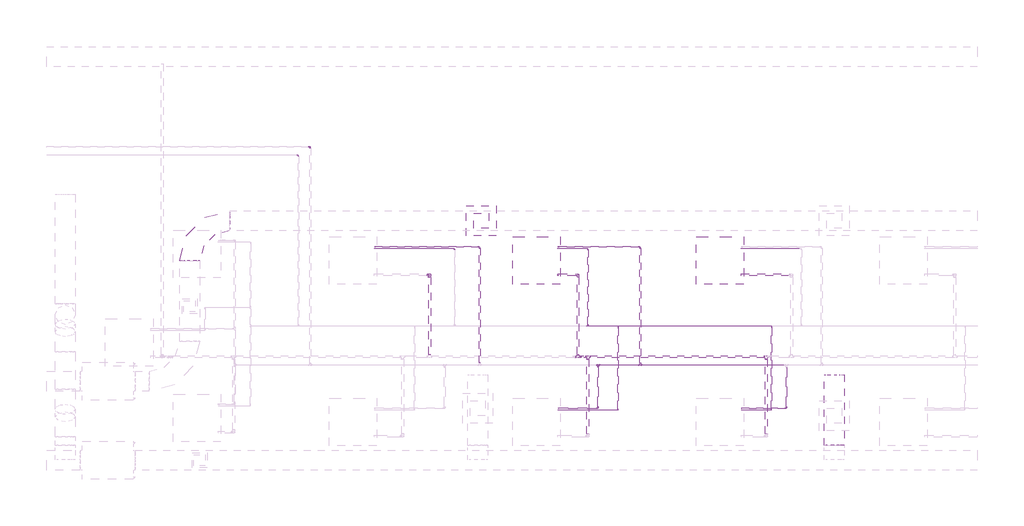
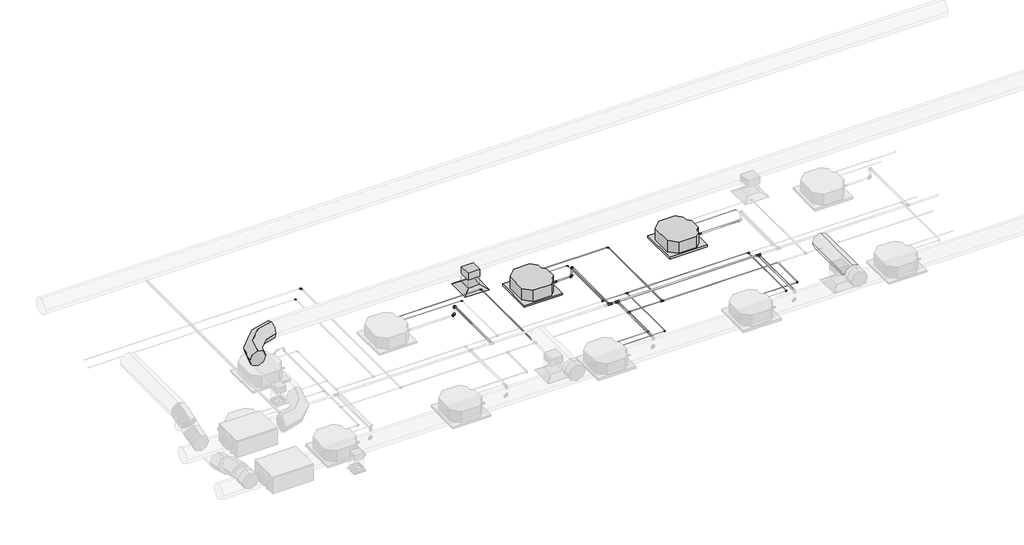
# One storey, part 8 of 22: 35 pipe fittings, 29 pipe segments, 2 duct fittings, 2 duct segments, 2 proxies, 1 air terminal.
"""IFC4 building model written with IfcOpenShell, lengths in millimetres."""

from ifc_helpers import new_model, si_unit, point, frame, frame_2d, origin, place, context, project, spatial, polyline, circle_curve, trimmed, segment, composite_curve, outline, extrude, transform, mapped, element, save
from components import air_terminal_ff221211, mechanical_equipment_53173f38, duct_fitting_95c1ddea, duct_fitting_2_d_33ab650d, pipe_fitting_e2d793b1, pipe_fitting_535881cf, pipe_fitting_3e2a63ee, pipe_fitting_144f4440, pipe_fitting_14eb6376, pipe_fitting_ec53ccd8, pipe_fitting_6062cb46, pipe_fitting_5d8e22a1, pipe_fitting_c900cfc2, pipe_fitting_16c020f5, pipe_fitting_0e110a5f, pipe_fitting_afe73776, pipe_fitting_09966660, pipe_fitting_59d1f3e3, pipe_fitting_648138cd, pipe_fitting_da16c1b3, pipe_fitting_5a6d96d3

model = new_model("IFC4")

# Units and contexts
model_context = context("Model", 3, world=origin())
ifc_project = project(units=[si_unit("LENGTHUNIT", "METRE", prefix="MILLI")], contexts=[model_context])

# Site, building, storey
site = spatial("IfcSite", under=ifc_project)
building = spatial("IfcBuilding", under=site)
storey = spatial("IfcBuildingStorey", under=building, Name="Nível 2", Elevation=3880.0)

# Air terminal
placement = place(None, origin())
air_terminal_shape = air_terminal_ff221211(model_context)
element("IfcAirTerminal", 1, ObjectType="M_Difusor de retorno : 600 x 600 Face 300 x 300 Conexão", at=placement, inside=storey, context=model_context, shape_type="MappedRepresentation", body=[
    mapped(air_terminal_shape, transform((6096.2436963, -3994.5831069, 6880.0), x_axis=(0.0, -1.0, 0.0), y_axis=(1.0, 0.0, 0.0), z_axis=(0.0, 0.0, 1.0))),
])

# Proxies
mechanical_equipment_shape = mechanical_equipment_53173f38(model_context)
element("IfcBuildingElementProxy", 2, Name="Midea_VRF_Indoor_4-way Cassette_MI-90(100,112,140)Q4_DHN1-D (2nd DC) : MI2-140Q4DHN1", ObjectType="Midea_VRF_Indoor_4-way Cassette_MI-90(100,112,140)Q4_DHN1-D (2nd DC) : MI2-140Q4DHN1", at=placement, inside=storey, context=model_context, shape_type="MappedRepresentation", body=[
    mapped(mechanical_equipment_shape, transform((10849.4883894, -4786.5566502, 6880.0), x_axis=(1.0, 0.0, 0.0), y_axis=(0.0, 1.0, 0.0), z_axis=(0.0, 0.0, 1.0))),
])
element("IfcBuildingElementProxy", 3, Name="Midea_VRF_Indoor_4-way Cassette_MI-90(100,112,140)Q4_DHN1-D (2nd DC) : MI2-140Q4DHN1", ObjectType="Midea_VRF_Indoor_4-way Cassette_MI-90(100,112,140)Q4_DHN1-D (2nd DC) : MI2-140Q4DHN1", at=placement, inside=storey, context=model_context, shape_type="MappedRepresentation", body=[
    mapped(mechanical_equipment_shape, transform((7195.2684179, -4786.5566502, 6880.0), x_axis=(1.0, 0.0, 0.0), y_axis=(0.0, 1.0, 0.0), z_axis=(0.0, 0.0, 1.0))),
])

# Duct fittings
duct_fitting_shape = duct_fitting_95c1ddea(model_context)
element("IfcDuctFitting", 4, ObjectType="M_Encaixe de duto retangular : Padrão", at=placement, inside=storey, context=model_context, shape_type="MappedRepresentation", body=[
    mapped(duct_fitting_shape, transform((6096.2436963, -3994.5831069, 7301.0), x_axis=(0.0, 0.0, -1.0), y_axis=(-1.0, 0.0, 0.0), z_axis=(0.0, 1.0, 0.0))),
])
duct_fitting_2_d_shape = duct_fitting_2_d_33ab650d(model_context)
element("IfcDuctFitting", 5, ObjectType="M_Cotovelo redondo : 2 D", at=placement, inside=storey, context=model_context, shape_type="MappedRepresentation", body=[
    mapped(duct_fitting_2_d_shape, transform((283.5312703, -3994.5831069, 7501.0), x_axis=(-1.0, 0.0, 0.0), y_axis=(0.0, -1.0, 0.0), z_axis=(0.0, 0.0, 1.0))),
])

# Duct segments
element("IfcDuctSegment", 6, ObjectType="Torneiras / Raio curto", at=placement, inside=storey, context=model_context, shape_type="SweptSolid", body=[
    extrude(outline(composite_curve([segment(trimmed(circle_curve(frame_2d((7501.0, 13129.4277224)), 200.0), [point((7501.0, 13329.4277224))], [point((7701.0, 13129.4277224))], False, "CARTESIAN"), True, "CONTINUOUS"), segment(trimmed(circle_curve(frame_2d((7501.0, 13129.4277224)), 200.0), [point((7701.0, 13129.4277224))], [point((7501.0, 12929.4277224))], False, "CARTESIAN"), True, "CONTINUOUS"), segment(trimmed(circle_curve(frame_2d((7501.0, 13129.4277224)), 200.0), [point((7501.0, 12929.4277224))], [point((7301.0, 13129.4277224))], False, "CARTESIAN"), True, "CONTINUOUS"), segment(trimmed(circle_curve(frame_2d((7501.0, 13129.4277224)), 200.0), [point((7301.0, 13129.4277224))], [point((7501.0, 13329.4277224))], False, "CARTESIAN"), True, "CONTINUOUS")], self_intersect=False)), frame((0.0, -8462.2997628, 0.0), z_axis=(0.0, 1.0, 0.0), x_axis=(0.0, 0.0, 1.0)), (0.0, 0.0, 1.0), 1398.4),
])
element("IfcDuctSegment", 7, ObjectType="Raios cotovelos / torneiras", at=placement, inside=storey, context=model_context, shape_type="SweptSolid", body=[
    extrude(outline(polyline([(6246.2436963, -4144.5831069), (5946.2436963, -4144.5831069), (5946.2436963, -3844.5831069), (6246.2436963, -3844.5831069), (6246.2436963, -4144.5831069)])), frame((0.0, 0.0, 6981.6), z_axis=(0.0, 0.0, 1.0), x_axis=(1.0, 0.0, 0.0)), (0.0, 0.0, 1.0), 217.8),
])

# Pipe fittings
pipe_fitting_shape = pipe_fitting_e2d793b1(model_context)
element("IfcPipeFitting", 8, ObjectType="Bucha de redução reta - Soldada - CU : Padrão", at=placement, inside=storey, context=model_context, shape_type="MappedRepresentation", body=[
    mapped(pipe_fitting_shape, transform((7620.2684179, -5071.5566502, 7132.3085101), x_axis=(1.0, 0.0, 0.0), y_axis=(0.0, 1.0, 0.0), z_axis=(0.0, 0.0, 1.0))),
])
pipe_fitting_2_shape = pipe_fitting_535881cf(model_context)
element("IfcPipeFitting", 9, ObjectType="Cotovelo - Soldado - CU : Padrão", at=placement, inside=storey, context=model_context, shape_type="MappedRepresentation", body=[
    mapped(pipe_fitting_2_shape, transform((8020.2684178, -5071.5566502, 7380.0), x_axis=(0.0, 0.0, 1.0), y_axis=(0.0, -1.0, 0.0), z_axis=(1.0, 0.0, 0.0))),
])
pipe_fitting_3_shape = pipe_fitting_3e2a63ee(model_context)
element("IfcPipeFitting", 10, ObjectType="Tê - Soldado - CU : Padrão", at=placement, inside=storey, context=model_context, shape_type="MappedRepresentation", body=[
    mapped(pipe_fitting_3_shape, transform((8020.2684178, -6706.7007344, 7380.0), x_axis=(-1.0, 0.0, 0.0), y_axis=(0.0, -1.0, 0.0), z_axis=(0.0, 0.0, 1.0))),
])
pipe_fitting_4_shape = pipe_fitting_144f4440(model_context)
element("IfcPipeFitting", 11, ObjectType="Cotovelo - PVC - CW : Padrão", at=placement, inside=storey, context=model_context, shape_type="MappedRepresentation", body=[
    mapped(pipe_fitting_4_shape, transform((5066.0484463, -5071.5566502, 7380.0), x_axis=(0.0, 0.0, 1.0), y_axis=(0.0, -1.0, 0.0), z_axis=(1.0, 0.0, 0.0))),
])
pipe_fitting_5_shape = pipe_fitting_14eb6376(model_context)
element("IfcPipeFitting", 12, ObjectType="Tê de redução - PVC - CW : Padrão", at=placement, inside=storey, context=model_context, shape_type="MappedRepresentation", body=[
    mapped(pipe_fitting_5_shape, transform((8220.2684178, -6706.7007344, 7380.0), x_axis=(-1.0, 0.0, 0.0), y_axis=(0.0, 1.0, 0.0), z_axis=(0.0, 0.0, -1.0))),
])
element("IfcPipeFitting", 13, ObjectType="Tê de redução - PVC - CW : Padrão", at=placement, inside=storey, context=model_context, shape_type="MappedRepresentation", body=[
    mapped(pipe_fitting_5_shape, transform((11774.4883894, -6706.7007344, 7380.0), x_axis=(-1.0, 0.0, 0.0), y_axis=(0.0, 1.0, 0.0), z_axis=(0.0, 0.0, -1.0))),
])
pipe_fitting_6_shape = pipe_fitting_ec53ccd8(model_context)
element("IfcPipeFitting", 14, ObjectType="Bucha de redução reta - Soldada - CU : Padrão", at=placement, inside=storey, context=model_context, shape_type="MappedRepresentation", body=[
    mapped(pipe_fitting_6_shape, transform((8067.0184178, -6706.7007344, 7380.0), x_axis=(1.0, 0.0, 0.0), y_axis=(0.0, 1.0, 0.0), z_axis=(0.0, 0.0, 1.0))),
])
pipe_fitting_7_shape = pipe_fitting_6062cb46(model_context)
element("IfcPipeFitting", 15, ObjectType="Cotovelo - PVC - CW : Padrão", at=placement, inside=storey, context=model_context, shape_type="MappedRepresentation", body=[
    mapped(pipe_fitting_7_shape, transform((5066.0484463, -5071.5566502, 7132.3), x_axis=(0.9999999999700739, 0.0, -7.736412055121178e-06), y_axis=(7.736412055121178e-06, 0.0, 0.9999999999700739), z_axis=(0.0, -1.0, 0.0))),
])
pipe_fitting_8_shape = pipe_fitting_5d8e22a1(model_context)
element("IfcPipeFitting", 16, ObjectType="Cotovelo - Soldado - CU : Padrão", at=placement, inside=storey, context=model_context, shape_type="MappedRepresentation", body=[
    mapped(pipe_fitting_8_shape, transform((8020.2684178, -5071.5566502, 7132.3), x_axis=(0.9999999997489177, 0.0, -2.2409030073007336e-05), y_axis=(2.2409030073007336e-05, 0.0, 0.9999999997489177), z_axis=(0.0, -1.0, 0.0))),
])
pipe_fitting_9_shape = pipe_fitting_c900cfc2(model_context)
element("IfcPipeFitting", 17, ObjectType="Bucha de redução reta - Soldada - CU : Padrão", at=placement, inside=storey, context=model_context, shape_type="MappedRepresentation", body=[
    mapped(pipe_fitting_9_shape, transform((11274.4883894, -7728.7092137, 7132.3085101), x_axis=(1.0, 0.0, 0.0), y_axis=(0.0, 1.0, 0.0), z_axis=(0.0, 0.0, 1.0))),
])
element("IfcPipeFitting", 18, ObjectType="Bucha de redução reta - Soldada - CU : Padrão", at=placement, inside=storey, context=model_context, shape_type="MappedRepresentation", body=[
    mapped(pipe_fitting_9_shape, transform((11274.4883894, -4513.3458366, 7132.3085101), x_axis=(1.0, 0.0, 0.0), y_axis=(0.0, 1.0, 0.0), z_axis=(0.0, 0.0, 1.0))),
])
element("IfcPipeFitting", 19, ObjectType="Bucha de redução reta - Soldada - CU : Padrão", at=placement, inside=storey, context=model_context, shape_type="MappedRepresentation", body=[
    mapped(pipe_fitting_9_shape, transform((7620.2684179, -4513.3458366, 7132.3085101), x_axis=(1.0, 0.0, 0.0), y_axis=(0.0, 1.0, 0.0), z_axis=(0.0, 0.0, 1.0))),
])
pipe_fitting_10_shape = pipe_fitting_16c020f5(model_context)
element("IfcPipeFitting", 20, ObjectType="Cotovelo - Soldado - CU : Padrão", at=placement, inside=storey, context=model_context, shape_type="MappedRepresentation", body=[
    mapped(pipe_fitting_10_shape, transform((12174.4883894, -7728.7092137, 7132.3085101), x_axis=(1.0, 0.0, 0.0), y_axis=(0.0, 1.0, 0.0), z_axis=(0.0, 0.0, 1.0))),
])
element("IfcPipeFitting", 21, ObjectType="Cotovelo - Soldado - CU : Padrão", at=placement, inside=storey, context=model_context, shape_type="MappedRepresentation", body=[
    mapped(pipe_fitting_10_shape, transform((8420.2684179, -7728.7092137, 7132.3085101), x_axis=(1.0, 0.0, 0.0), y_axis=(0.0, 1.0, 0.0), z_axis=(0.0, 0.0, 1.0))),
])
element("IfcPipeFitting", 22, ObjectType="Cotovelo - Soldado - CU : Padrão", at=placement, inside=storey, context=model_context, shape_type="MappedRepresentation", body=[
    mapped(pipe_fitting_10_shape, transform((9260.2684179, -4513.3458366, 7132.3085101), x_axis=(0.0, 1.0, 0.0), y_axis=(-1.0, 0.0, 0.0), z_axis=(0.0, 0.0, 1.0))),
])
element("IfcPipeFitting", 23, ObjectType="Cotovelo - Soldado - CU : Padrão", at=placement, inside=storey, context=model_context, shape_type="MappedRepresentation", body=[
    mapped(pipe_fitting_10_shape, transform((6066.0484463, -4513.3458366, 7132.3085101), x_axis=(0.0, 1.0, 0.0), y_axis=(-1.0, 0.0, 0.0), z_axis=(0.0, 0.0, 1.0))),
])
pipe_fitting_11_shape = pipe_fitting_0e110a5f(model_context)
element("IfcPipeFitting", 24, ObjectType="Cotovelo - Soldado - CU : Padrão", at=placement, inside=storey, context=model_context, shape_type="MappedRepresentation", body=[
    mapped(pipe_fitting_11_shape, transform((2684.689564, -2518.4426922, 7132.3), x_axis=(0.0, 0.9999999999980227, -1.9886254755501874e-06), y_axis=(-1.0, 0.0, 0.0), z_axis=(0.0, 1.9886254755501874e-06, 0.9999999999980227))),
])
pipe_fitting_12_shape = pipe_fitting_afe73776(model_context)
element("IfcPipeFitting", 25, ObjectType="Bucha de redução reta - Soldada - CU : Padrão", at=placement, inside=storey, context=model_context, shape_type="MappedRepresentation", body=[
    mapped(pipe_fitting_12_shape, transform((8420.2684179, -6898.1281922, 7132.3085101), x_axis=(0.0, -1.0, 0.0), y_axis=(1.0, 0.0, 0.0), z_axis=(0.0, 0.0, 1.0))),
])
element("IfcPipeFitting", 26, ObjectType="Bucha de redução reta - Soldada - CU : Padrão", at=placement, inside=storey, context=model_context, shape_type="MappedRepresentation", body=[
    mapped(pipe_fitting_12_shape, transform((9260.2684179, -6837.8071922, 7132.3085101), x_axis=(0.0, 1.0, 0.0), y_axis=(-1.0, 0.0, 0.0), z_axis=(0.0, 0.0, 1.0))),
])
pipe_fitting_13_shape = pipe_fitting_09966660(model_context)
element("IfcPipeFitting", 27, ObjectType="Tê - Soldado - CU : Padrão", at=placement, inside=storey, context=model_context, shape_type="MappedRepresentation", body=[
    mapped(pipe_fitting_13_shape, transform((8420.2684179, -6867.9676922, 7132.3085101), x_axis=(-1.0, 0.0, 0.0), y_axis=(0.0, 1.0, 0.0), z_axis=(0.0, 0.0, -1.0))),
])
element("IfcPipeFitting", 28, ObjectType="Tê - Soldado - CU : Padrão", at=placement, inside=storey, context=model_context, shape_type="MappedRepresentation", body=[
    mapped(pipe_fitting_13_shape, transform((9260.2684179, -6867.9676922, 7132.3085101), x_axis=(-1.0, 0.0, 0.0), y_axis=(0.0, -1.0, 0.0), z_axis=(0.0, 0.0, 1.0))),
])
pipe_fitting_14_shape = pipe_fitting_59d1f3e3(model_context)
element("IfcPipeFitting", 29, ObjectType="Bucha de redução reta - Soldada - CU : Padrão", at=placement, inside=storey, context=model_context, shape_type="MappedRepresentation", body=[
    mapped(pipe_fitting_14_shape, transform((11274.4883894, -7762.5116556, 7026.8446487), x_axis=(1.0, 0.0, 0.0), y_axis=(0.0, 1.0, 0.0), z_axis=(0.0, 0.0, 1.0))),
])
element("IfcPipeFitting", 30, ObjectType="Bucha de redução reta - Soldada - CU : Padrão", at=placement, inside=storey, context=model_context, shape_type="MappedRepresentation", body=[
    mapped(pipe_fitting_14_shape, transform((11274.4883894, -4547.1482784, 7026.8446487), x_axis=(1.0, 0.0, 0.0), y_axis=(0.0, 1.0, 0.0), z_axis=(0.0, 0.0, 1.0))),
])
element("IfcPipeFitting", 31, ObjectType="Bucha de redução reta - Soldada - CU : Padrão", at=placement, inside=storey, context=model_context, shape_type="MappedRepresentation", body=[
    mapped(pipe_fitting_14_shape, transform((7620.2684179, -4547.1482784, 7026.8446487), x_axis=(1.0, 0.0, 0.0), y_axis=(0.0, 1.0, 0.0), z_axis=(0.0, 0.0, 1.0))),
])
pipe_fitting_15_shape = pipe_fitting_648138cd(model_context)
element("IfcPipeFitting", 32, ObjectType="Cotovelo - Soldado - CU : Padrão", at=placement, inside=storey, context=model_context, shape_type="MappedRepresentation", body=[
    mapped(pipe_fitting_15_shape, transform((11874.4883894, -7762.5116556, 7026.8446487), x_axis=(1.0, 0.0, 0.0), y_axis=(0.0, 1.0, 0.0), z_axis=(0.0, 0.0, 1.0))),
])
element("IfcPipeFitting", 33, ObjectType="Cotovelo - Soldado - CU : Padrão", at=placement, inside=storey, context=model_context, shape_type="MappedRepresentation", body=[
    mapped(pipe_fitting_15_shape, transform((8820.2684179, -7762.5116556, 7026.8446487), x_axis=(1.0, 0.0, 0.0), y_axis=(0.0, 1.0, 0.0), z_axis=(0.0, 0.0, 1.0))),
])
element("IfcPipeFitting", 34, ObjectType="Cotovelo - Soldado - CU : Padrão", at=placement, inside=storey, context=model_context, shape_type="MappedRepresentation", body=[
    mapped(pipe_fitting_15_shape, transform((8220.2684179, -4547.1482784, 7026.8446487), x_axis=(0.0, 1.0, 0.0), y_axis=(-1.0, 0.0, 0.0), z_axis=(0.0, 0.0, 1.0))),
])
element("IfcPipeFitting", 35, ObjectType="Cotovelo - Soldado - CU : Padrão", at=placement, inside=storey, context=model_context, shape_type="MappedRepresentation", body=[
    mapped(pipe_fitting_15_shape, transform((5566.0484463, -4547.1482784, 7026.8446487), x_axis=(0.0, 1.0, 0.0), y_axis=(-1.0, 0.0, 0.0), z_axis=(0.0, 0.0, 1.0))),
])
element("IfcPipeFitting", 36, ObjectType="Cotovelo - Soldado - CU : Padrão", at=placement, inside=storey, context=model_context, shape_type="MappedRepresentation", body=[
    mapped(pipe_fitting_15_shape, transform((2451.4313698, -2684.7491488, 7026.8446487), x_axis=(0.0, 1.0, 0.0), y_axis=(-1.0, 0.0, 0.0), z_axis=(0.0, 0.0, 1.0))),
])
pipe_fitting_16_shape = pipe_fitting_da16c1b3(model_context)
element("IfcPipeFitting", 37, ObjectType="Tê - Soldado - CU : Padrão", at=placement, inside=storey, context=model_context, shape_type="MappedRepresentation", body=[
    mapped(pipe_fitting_16_shape, transform((11874.4883894, -6091.0991488, 7026.8446487), x_axis=(-1.0, 0.0, 0.0), y_axis=(0.0, 1.0, 0.0), z_axis=(0.0, 0.0, -1.0))),
])
element("IfcPipeFitting", 38, ObjectType="Tê - Soldado - CU : Padrão", at=placement, inside=storey, context=model_context, shape_type="MappedRepresentation", body=[
    mapped(pipe_fitting_16_shape, transform((8820.2684179, -6091.0991488, 7026.8446487), x_axis=(-1.0, 0.0, 0.0), y_axis=(0.0, 1.0, 0.0), z_axis=(0.0, 0.0, -1.0))),
])
element("IfcPipeFitting", 39, ObjectType="Tê - Soldado - CU : Padrão", at=placement, inside=storey, context=model_context, shape_type="MappedRepresentation", body=[
    mapped(pipe_fitting_16_shape, transform((8220.2684179, -6091.0991488, 7026.8446487), x_axis=(-1.0, 0.0, 0.0), y_axis=(0.0, -1.0, 0.0), z_axis=(0.0, 0.0, 1.0))),
])
pipe_fitting_17_shape = pipe_fitting_5a6d96d3(model_context)
element("IfcPipeFitting", 40, ObjectType="Bucha de redução reta - Soldada - CU : Padrão", at=placement, inside=storey, context=model_context, shape_type="MappedRepresentation", body=[
    mapped(pipe_fitting_17_shape, transform((11874.4883894, -6116.1161488, 7026.8446487), x_axis=(0.0, -1.0, 0.0), y_axis=(1.0, 0.0, 0.0), z_axis=(0.0, 0.0, 1.0))),
])
element("IfcPipeFitting", 41, ObjectType="Bucha de redução reta - Soldada - CU : Padrão", at=placement, inside=storey, context=model_context, shape_type="MappedRepresentation", body=[
    mapped(pipe_fitting_17_shape, transform((8820.2684179, -6116.1161488, 7026.8446487), x_axis=(0.0, -1.0, 0.0), y_axis=(1.0, 0.0, 0.0), z_axis=(0.0, 0.0, 1.0))),
])
element("IfcPipeFitting", 42, ObjectType="Bucha de redução reta - Soldada - CU : Padrão", at=placement, inside=storey, context=model_context, shape_type="MappedRepresentation", body=[
    mapped(pipe_fitting_17_shape, transform((8220.2684179, -6066.0821488, 7026.8446487), x_axis=(0.0, 1.0, 0.0), y_axis=(-1.0, 0.0, 0.0), z_axis=(0.0, 0.0, 1.0))),
])

# Pipe segments
element("IfcPipeSegment", 43, ObjectType="Tubos de cobre HVAC", at=placement, inside=storey, context=model_context, shape_type="SweptSolid", body=[
    extrude(outline(composite_curve([segment(trimmed(circle_curve(frame_2d((-7728.7092137, 7132.3085101)), 7.935), [point((-7736.6442137, 7132.3085101))], [point((-7728.7092137, 7140.2435101))], False, "CARTESIAN"), True, "CONTINUOUS"), segment(trimmed(circle_curve(frame_2d((-7728.7092137, 7132.3085101)), 7.935), [point((-7728.7092137, 7140.2435101))], [point((-7720.7742137, 7132.3085101))], False, "CARTESIAN"), True, "CONTINUOUS"), segment(trimmed(circle_curve(frame_2d((-7728.7092137, 7132.3085101)), 7.935), [point((-7720.7742137, 7132.3085101))], [point((-7728.7092137, 7124.3735101))], False, "CARTESIAN"), True, "CONTINUOUS"), segment(trimmed(circle_curve(frame_2d((-7728.7092137, 7132.3085101)), 7.935), [point((-7728.7092137, 7124.3735101))], [point((-7736.6442137, 7132.3085101))], False, "CARTESIAN"), True, "CONTINUOUS")], self_intersect=False)), frame((11287.1472894, 0.0, 0.0), z_axis=(1.0, 0.0, 0.0), x_axis=(0.0, 1.0, 0.0)), (0.0, 0.0, 1.0), 858.3625),
])
element("IfcPipeSegment", 44, ObjectType="Tubos de cobre HVAC", at=placement, inside=storey, context=model_context, shape_type="SweptSolid", body=[
    extrude(outline(composite_curve([segment(trimmed(circle_curve(frame_2d((7132.3085101, 12174.4883894)), 7.935), [point((7132.3085101, 12166.5533894))], [point((7124.3735101, 12174.4883894))], False, "CARTESIAN"), True, "CONTINUOUS"), segment(trimmed(circle_curve(frame_2d((7132.3085101, 12174.4883894)), 7.935), [point((7124.3735101, 12174.4883894))], [point((7132.3085101, 12182.4233894))], False, "CARTESIAN"), True, "CONTINUOUS"), segment(trimmed(circle_curve(frame_2d((7132.3085101, 12174.4883894)), 7.935), [point((7132.3085101, 12182.4233894))], [point((7140.2435101, 12174.4883894))], False, "CARTESIAN"), True, "CONTINUOUS"), segment(trimmed(circle_curve(frame_2d((7132.3085101, 12174.4883894)), 7.935), [point((7140.2435101, 12174.4883894))], [point((7132.3085101, 12166.5533894))], False, "CARTESIAN"), True, "CONTINUOUS")], self_intersect=False)), frame((0.0, -7699.7306137, 0.0), z_axis=(0.0, 1.0, 0.0), x_axis=(0.0, 0.0, 1.0)), (0.0, 0.0, 1.0), 788.9435215),
])
element("IfcPipeSegment", 45, ObjectType="Tubos de cobre HVAC", at=placement, inside=storey, context=model_context, shape_type="SweptSolid", body=[
    extrude(outline(composite_curve([segment(trimmed(circle_curve(frame_2d((-6867.9676922, 7132.3085101)), 9.525), [point((-6877.4926922, 7132.3085101))], [point((-6867.9676922, 7141.8335101))], False, "CARTESIAN"), True, "CONTINUOUS"), segment(trimmed(circle_curve(frame_2d((-6867.9676922, 7132.3085101)), 9.525), [point((-6867.9676922, 7141.8335101))], [point((-6858.4426922, 7132.3085101))], False, "CARTESIAN"), True, "CONTINUOUS"), segment(trimmed(circle_curve(frame_2d((-6867.9676922, 7132.3085101)), 9.525), [point((-6858.4426922, 7132.3085101))], [point((-6867.9676922, 7122.7835101))], False, "CARTESIAN"), True, "CONTINUOUS"), segment(trimmed(circle_curve(frame_2d((-6867.9676922, 7132.3085101)), 9.525), [point((-6867.9676922, 7122.7835101))], [point((-6877.4926922, 7132.3085101))], False, "CARTESIAN"), True, "CONTINUOUS")], self_intersect=False)), frame((9290.4636679, 0.0, 0.0), z_axis=(1.0, 0.0, 0.0), x_axis=(0.0, 1.0, 0.0)), (0.0, 0.0, 1.0), 2853.8294715),
])
element("IfcPipeSegment", 46, ObjectType="Tubos de cobre HVAC", at=placement, inside=storey, context=model_context, shape_type="SweptSolid", body=[
    extrude(outline(composite_curve([segment(trimmed(circle_curve(frame_2d((-7728.7092137, 7132.3085101)), 7.935), [point((-7736.6442137, 7132.3085101))], [point((-7728.7092137, 7140.2435101))], False, "CARTESIAN"), True, "CONTINUOUS"), segment(trimmed(circle_curve(frame_2d((-7728.7092137, 7132.3085101)), 7.935), [point((-7728.7092137, 7140.2435101))], [point((-7720.7742137, 7132.3085101))], False, "CARTESIAN"), True, "CONTINUOUS"), segment(trimmed(circle_curve(frame_2d((-7728.7092137, 7132.3085101)), 7.935), [point((-7720.7742137, 7132.3085101))], [point((-7728.7092137, 7124.3735101))], False, "CARTESIAN"), True, "CONTINUOUS"), segment(trimmed(circle_curve(frame_2d((-7728.7092137, 7132.3085101)), 7.935), [point((-7728.7092137, 7124.3735101))], [point((-7736.6442137, 7132.3085101))], False, "CARTESIAN"), True, "CONTINUOUS")], self_intersect=False)), frame((7632.9273179, 0.0, 0.0), z_axis=(1.0, 0.0, 0.0), x_axis=(0.0, 1.0, 0.0)), (0.0, 0.0, 1.0), 758.3625),
])
element("IfcPipeSegment", 47, ObjectType="Tubos de cobre HVAC", at=placement, inside=storey, context=model_context, shape_type="SweptSolid", body=[
    extrude(outline(composite_curve([segment(trimmed(circle_curve(frame_2d((7132.3085101, 8420.2684179)), 7.935), [point((7132.3085101, 8412.3334179))], [point((7124.3735101, 8420.2684179))], False, "CARTESIAN"), True, "CONTINUOUS"), segment(trimmed(circle_curve(frame_2d((7132.3085101, 8420.2684179)), 7.935), [point((7124.3735101, 8420.2684179))], [point((7132.3085101, 8428.2034179))], False, "CARTESIAN"), True, "CONTINUOUS"), segment(trimmed(circle_curve(frame_2d((7132.3085101, 8420.2684179)), 7.935), [point((7132.3085101, 8428.2034179))], [point((7140.2435101, 8420.2684179))], False, "CARTESIAN"), True, "CONTINUOUS"), segment(trimmed(circle_curve(frame_2d((7132.3085101, 8420.2684179)), 7.935), [point((7140.2435101, 8420.2684179))], [point((7132.3085101, 8412.3334179))], False, "CARTESIAN"), True, "CONTINUOUS")], self_intersect=False)), frame((0.0, -7699.7306137, 0.0), z_axis=(0.0, 1.0, 0.0), x_axis=(0.0, 0.0, 1.0)), (0.0, 0.0, 1.0), 788.9435215),
])
element("IfcPipeSegment", 48, ObjectType="Tubos de cobre HVAC", at=placement, inside=storey, context=model_context, shape_type="SweptSolid", body=[
    extrude(outline(composite_curve([segment(trimmed(circle_curve(frame_2d((-4513.3458366, 7132.3085101)), 7.935), [point((-4521.2808366, 7132.3085101))], [point((-4513.3458366, 7140.2435101))], False, "CARTESIAN"), True, "CONTINUOUS"), segment(trimmed(circle_curve(frame_2d((-4513.3458366, 7132.3085101)), 7.935), [point((-4513.3458366, 7140.2435101))], [point((-4505.4108366, 7132.3085101))], False, "CARTESIAN"), True, "CONTINUOUS"), segment(trimmed(circle_curve(frame_2d((-4513.3458366, 7132.3085101)), 7.935), [point((-4505.4108366, 7132.3085101))], [point((-4513.3458366, 7124.3735101))], False, "CARTESIAN"), True, "CONTINUOUS"), segment(trimmed(circle_curve(frame_2d((-4513.3458366, 7132.3085101)), 7.935), [point((-4513.3458366, 7124.3735101))], [point((-4521.2808366, 7132.3085101))], False, "CARTESIAN"), True, "CONTINUOUS")], self_intersect=False)), frame((7632.9273179, 0.0, 0.0), z_axis=(1.0, 0.0, 0.0), x_axis=(0.0, 1.0, 0.0)), (0.0, 0.0, 1.0), 1598.3625),
])
element("IfcPipeSegment", 49, ObjectType="Tubos de cobre HVAC", at=placement, inside=storey, context=model_context, shape_type="SweptSolid", body=[
    extrude(outline(composite_curve([segment(trimmed(circle_curve(frame_2d((7132.3085101, 9260.2684179)), 7.935), [point((7132.3085101, 9268.2034179))], [point((7140.2435101, 9260.2684179))], False, "CARTESIAN"), True, "CONTINUOUS"), segment(trimmed(circle_curve(frame_2d((7132.3085101, 9260.2684179)), 7.935), [point((7140.2435101, 9260.2684179))], [point((7132.3085101, 9252.3334179))], False, "CARTESIAN"), True, "CONTINUOUS"), segment(trimmed(circle_curve(frame_2d((7132.3085101, 9260.2684179)), 7.935), [point((7132.3085101, 9252.3334179))], [point((7124.3735101, 9260.2684179))], False, "CARTESIAN"), True, "CONTINUOUS"), segment(trimmed(circle_curve(frame_2d((7132.3085101, 9260.2684179)), 7.935), [point((7124.3735101, 9260.2684179))], [point((7132.3085101, 9268.2034179))], False, "CARTESIAN"), True, "CONTINUOUS")], self_intersect=False)), frame((0.0, -6825.1482922, 0.0), z_axis=(0.0, 1.0, 0.0), x_axis=(0.0, 0.0, 1.0)), (0.0, 0.0, 1.0), 2282.8238557),
])
element("IfcPipeSegment", 50, ObjectType="Tubos de cobre HVAC", at=placement, inside=storey, context=model_context, shape_type="SweptSolid", body=[
    extrude(outline(composite_curve([segment(trimmed(circle_curve(frame_2d((-6867.9676922, 7132.3085101)), 9.525), [point((-6877.4926922, 7132.3085101))], [point((-6867.9676922, 7141.8335101))], False, "CARTESIAN"), True, "CONTINUOUS"), segment(trimmed(circle_curve(frame_2d((-6867.9676922, 7132.3085101)), 9.525), [point((-6867.9676922, 7141.8335101))], [point((-6858.4426922, 7132.3085101))], False, "CARTESIAN"), True, "CONTINUOUS"), segment(trimmed(circle_curve(frame_2d((-6867.9676922, 7132.3085101)), 9.525), [point((-6858.4426922, 7132.3085101))], [point((-6867.9676922, 7122.7835101))], False, "CARTESIAN"), True, "CONTINUOUS"), segment(trimmed(circle_curve(frame_2d((-6867.9676922, 7132.3085101)), 9.525), [point((-6867.9676922, 7122.7835101))], [point((-6877.4926922, 7132.3085101))], False, "CARTESIAN"), True, "CONTINUOUS")], self_intersect=False)), frame((8450.4636679, 0.0, 0.0), z_axis=(1.0, 0.0, 0.0), x_axis=(0.0, 1.0, 0.0)), (0.0, 0.0, 1.0), 779.6095),
])
element("IfcPipeSegment", 51, ObjectType="Tubos de cobre HVAC", at=placement, inside=storey, context=model_context, shape_type="SweptSolid", body=[
    extrude(outline(composite_curve([segment(trimmed(circle_curve(frame_2d((-4513.3458366, 7132.3085101)), 7.935), [point((-4521.2808366, 7132.3085101))], [point((-4513.3458366, 7140.2435101))], False, "CARTESIAN"), True, "CONTINUOUS"), segment(trimmed(circle_curve(frame_2d((-4513.3458366, 7132.3085101)), 7.935), [point((-4513.3458366, 7140.2435101))], [point((-4505.4108366, 7132.3085101))], False, "CARTESIAN"), True, "CONTINUOUS"), segment(trimmed(circle_curve(frame_2d((-4513.3458366, 7132.3085101)), 7.935), [point((-4505.4108366, 7132.3085101))], [point((-4513.3458366, 7124.3735101))], False, "CARTESIAN"), True, "CONTINUOUS"), segment(trimmed(circle_curve(frame_2d((-4513.3458366, 7132.3085101)), 7.935), [point((-4513.3458366, 7124.3735101))], [point((-4521.2808366, 7132.3085101))], False, "CARTESIAN"), True, "CONTINUOUS")], self_intersect=False)), frame((3978.7073463, 0.0, 0.0), z_axis=(1.0, 0.0, 0.0), x_axis=(0.0, 1.0, 0.0)), (0.0, 0.0, 1.0), 2058.3625),
])
element("IfcPipeSegment", 52, ObjectType="Tubos de cobre HVAC", at=placement, inside=storey, context=model_context, shape_type="SweptSolid", body=[
    extrude(outline(composite_curve([segment(trimmed(circle_curve(frame_2d((7132.3085101, 6066.0484463)), 7.935), [point((7132.3085101, 6073.9834463))], [point((7140.2435101, 6066.0484463))], False, "CARTESIAN"), True, "CONTINUOUS"), segment(trimmed(circle_curve(frame_2d((7132.3085101, 6066.0484463)), 7.935), [point((7140.2435101, 6066.0484463))], [point((7132.3085101, 6058.1134463))], False, "CARTESIAN"), True, "CONTINUOUS"), segment(trimmed(circle_curve(frame_2d((7132.3085101, 6066.0484463)), 7.935), [point((7132.3085101, 6058.1134463))], [point((7124.3735101, 6066.0484463))], False, "CARTESIAN"), True, "CONTINUOUS"), segment(trimmed(circle_curve(frame_2d((7132.3085101, 6066.0484463)), 7.935), [point((7124.3735101, 6066.0484463))], [point((7132.3085101, 6073.9834463))], False, "CARTESIAN"), True, "CONTINUOUS")], self_intersect=False)), frame((0.0, -6825.1482922, 0.0), z_axis=(0.0, 1.0, 0.0), x_axis=(0.0, 0.0, 1.0)), (0.0, 0.0, 1.0), 2282.8238557),
])
element("IfcPipeSegment", 53, ObjectType="Tubos de cobre HVAC", at=placement, inside=storey, context=model_context, shape_type="SweptSolid", body=[
    extrude(outline(composite_curve([segment(trimmed(circle_curve(frame_2d((-7762.5116556, 7026.8446487)), 4.76), [point((-7767.2716556, 7026.8446487))], [point((-7762.5116556, 7031.6046487))], False, "CARTESIAN"), True, "CONTINUOUS"), segment(trimmed(circle_curve(frame_2d((-7762.5116556, 7026.8446487)), 4.76), [point((-7762.5116556, 7031.6046487))], [point((-7757.7516556, 7026.8446487))], False, "CARTESIAN"), True, "CONTINUOUS"), segment(trimmed(circle_curve(frame_2d((-7762.5116556, 7026.8446487)), 4.76), [point((-7757.7516556, 7026.8446487))], [point((-7762.5116556, 7022.0846487))], False, "CARTESIAN"), True, "CONTINUOUS"), segment(trimmed(circle_curve(frame_2d((-7762.5116556, 7026.8446487)), 4.76), [point((-7762.5116556, 7022.0846487))], [point((-7767.2716556, 7026.8446487))], False, "CARTESIAN"), True, "CONTINUOUS")], self_intersect=False)), frame((11284.1627894, 0.0, 0.0), z_axis=(1.0, 0.0, 0.0), x_axis=(0.0, 1.0, 0.0)), (0.0, 0.0, 1.0), 566.3),
])
element("IfcPipeSegment", 54, ObjectType="Tubos de cobre HVAC", at=placement, inside=storey, context=model_context, shape_type="SweptSolid", body=[
    extrude(outline(composite_curve([segment(trimmed(circle_curve(frame_2d((7026.8446487, 11874.4883894)), 4.76), [point((7026.8446487, 11869.7283894))], [point((7022.0846487, 11874.4883894))], False, "CARTESIAN"), True, "CONTINUOUS"), segment(trimmed(circle_curve(frame_2d((7026.8446487, 11874.4883894)), 4.76), [point((7022.0846487, 11874.4883894))], [point((7026.8446487, 11879.2483894))], False, "CARTESIAN"), True, "CONTINUOUS"), segment(trimmed(circle_curve(frame_2d((7026.8446487, 11874.4883894)), 4.76), [point((7026.8446487, 11879.2483894))], [point((7031.6046487, 11874.4883894))], False, "CARTESIAN"), True, "CONTINUOUS"), segment(trimmed(circle_curve(frame_2d((7026.8446487, 11874.4883894)), 4.76), [point((7031.6046487, 11874.4883894))], [point((7026.8446487, 11869.7283894))], False, "CARTESIAN"), True, "CONTINUOUS")], self_intersect=False)), frame((0.0, -7738.4860556, 0.0), z_axis=(0.0, 1.0, 0.0), x_axis=(0.0, 0.0, 1.0)), (0.0, 0.0, 1.0), 1612.6955068),
])
element("IfcPipeSegment", 55, ObjectType="Tubos de cobre HVAC", at=placement, inside=storey, context=model_context, shape_type="SweptSolid", body=[
    extrude(outline(composite_curve([segment(trimmed(circle_curve(frame_2d((-6091.0991488, 7026.8446487)), 6.35), [point((-6097.4491488, 7026.8446487))], [point((-6091.0991488, 7033.1946487))], False, "CARTESIAN"), True, "CONTINUOUS"), segment(trimmed(circle_curve(frame_2d((-6091.0991488, 7026.8446487)), 6.35), [point((-6091.0991488, 7033.1946487))], [point((-6084.7491488, 7026.8446487))], False, "CARTESIAN"), True, "CONTINUOUS"), segment(trimmed(circle_curve(frame_2d((-6091.0991488, 7026.8446487)), 6.35), [point((-6084.7491488, 7026.8446487))], [point((-6091.0991488, 7020.4946487))], False, "CARTESIAN"), True, "CONTINUOUS"), segment(trimmed(circle_curve(frame_2d((-6091.0991488, 7026.8446487)), 6.35), [point((-6091.0991488, 7020.4946487))], [point((-6097.4491488, 7026.8446487))], False, "CARTESIAN"), True, "CONTINUOUS")], self_intersect=False)), frame((8845.3519179, 0.0, 0.0), z_axis=(1.0, 0.0, 0.0), x_axis=(0.0, 1.0, 0.0)), (0.0, 0.0, 1.0), 3004.0529715),
])
element("IfcPipeSegment", 56, ObjectType="Tubos de cobre HVAC", at=placement, inside=storey, context=model_context, shape_type="SweptSolid", body=[
    extrude(outline(composite_curve([segment(trimmed(circle_curve(frame_2d((-4547.1482784, 7026.8446487)), 4.76), [point((-4551.9082784, 7026.8446487))], [point((-4547.1482784, 7031.6046487))], False, "CARTESIAN"), True, "CONTINUOUS"), segment(trimmed(circle_curve(frame_2d((-4547.1482784, 7026.8446487)), 4.76), [point((-4547.1482784, 7031.6046487))], [point((-4542.3882784, 7026.8446487))], False, "CARTESIAN"), True, "CONTINUOUS"), segment(trimmed(circle_curve(frame_2d((-4547.1482784, 7026.8446487)), 4.76), [point((-4542.3882784, 7026.8446487))], [point((-4547.1482784, 7022.0846487))], False, "CARTESIAN"), True, "CONTINUOUS"), segment(trimmed(circle_curve(frame_2d((-4547.1482784, 7026.8446487)), 4.76), [point((-4547.1482784, 7022.0846487))], [point((-4551.9082784, 7026.8446487))], False, "CARTESIAN"), True, "CONTINUOUS")], self_intersect=False)), frame((11284.1627894, 0.0, 0.0), z_axis=(1.0, 0.0, 0.0), x_axis=(0.0, 1.0, 0.0)), (0.0, 0.0, 1.0), 1166.3),
])
element("IfcPipeSegment", 57, ObjectType="Tubos de cobre HVAC", at=placement, inside=storey, context=model_context, shape_type="SweptSolid", body=[
    extrude(outline(composite_curve([segment(trimmed(circle_curve(frame_2d((-7762.5116556, 7026.8446487)), 4.76), [point((-7767.2716556, 7026.8446487))], [point((-7762.5116556, 7031.6046487))], False, "CARTESIAN"), True, "CONTINUOUS"), segment(trimmed(circle_curve(frame_2d((-7762.5116556, 7026.8446487)), 4.76), [point((-7762.5116556, 7031.6046487))], [point((-7757.7516556, 7026.8446487))], False, "CARTESIAN"), True, "CONTINUOUS"), segment(trimmed(circle_curve(frame_2d((-7762.5116556, 7026.8446487)), 4.76), [point((-7757.7516556, 7026.8446487))], [point((-7762.5116556, 7022.0846487))], False, "CARTESIAN"), True, "CONTINUOUS"), segment(trimmed(circle_curve(frame_2d((-7762.5116556, 7026.8446487)), 4.76), [point((-7762.5116556, 7022.0846487))], [point((-7767.2716556, 7026.8446487))], False, "CARTESIAN"), True, "CONTINUOUS")], self_intersect=False)), frame((7629.9428179, 0.0, 0.0), z_axis=(1.0, 0.0, 0.0), x_axis=(0.0, 1.0, 0.0)), (0.0, 0.0, 1.0), 1166.3),
])
element("IfcPipeSegment", 58, ObjectType="Tubos de cobre HVAC", at=placement, inside=storey, context=model_context, shape_type="SweptSolid", body=[
    extrude(outline(composite_curve([segment(trimmed(circle_curve(frame_2d((7026.8446487, 8820.2684179)), 4.76), [point((7026.8446487, 8815.5084179))], [point((7022.0846487, 8820.2684179))], False, "CARTESIAN"), True, "CONTINUOUS"), segment(trimmed(circle_curve(frame_2d((7026.8446487, 8820.2684179)), 4.76), [point((7022.0846487, 8820.2684179))], [point((7026.8446487, 8825.0284179))], False, "CARTESIAN"), True, "CONTINUOUS"), segment(trimmed(circle_curve(frame_2d((7026.8446487, 8820.2684179)), 4.76), [point((7026.8446487, 8825.0284179))], [point((7031.6046487, 8820.2684179))], False, "CARTESIAN"), True, "CONTINUOUS"), segment(trimmed(circle_curve(frame_2d((7026.8446487, 8820.2684179)), 4.76), [point((7031.6046487, 8820.2684179))], [point((7026.8446487, 8815.5084179))], False, "CARTESIAN"), True, "CONTINUOUS")], self_intersect=False)), frame((0.0, -7738.4860556, 0.0), z_axis=(0.0, 1.0, 0.0), x_axis=(0.0, 0.0, 1.0)), (0.0, 0.0, 1.0), 1612.6955068),
])
element("IfcPipeSegment", 59, ObjectType="Tubos de cobre HVAC", at=placement, inside=storey, context=model_context, shape_type="SweptSolid", body=[
    extrude(outline(composite_curve([segment(trimmed(circle_curve(frame_2d((-6091.0991488, 7026.8446487)), 6.35), [point((-6097.4491488, 7026.8446487))], [point((-6091.0991488, 7033.1946487))], False, "CARTESIAN"), True, "CONTINUOUS"), segment(trimmed(circle_curve(frame_2d((-6091.0991488, 7026.8446487)), 6.35), [point((-6091.0991488, 7033.1946487))], [point((-6084.7491488, 7026.8446487))], False, "CARTESIAN"), True, "CONTINUOUS"), segment(trimmed(circle_curve(frame_2d((-6091.0991488, 7026.8446487)), 6.35), [point((-6084.7491488, 7026.8446487))], [point((-6091.0991488, 7020.4946487))], False, "CARTESIAN"), True, "CONTINUOUS"), segment(trimmed(circle_curve(frame_2d((-6091.0991488, 7026.8446487)), 6.35), [point((-6091.0991488, 7020.4946487))], [point((-6097.4491488, 7026.8446487))], False, "CARTESIAN"), True, "CONTINUOUS")], self_intersect=False)), frame((8245.3519179, 0.0, 0.0), z_axis=(1.0, 0.0, 0.0), x_axis=(0.0, 1.0, 0.0)), (0.0, 0.0, 1.0), 549.833),
])
element("IfcPipeSegment", 60, ObjectType="Tubos de cobre HVAC", at=placement, inside=storey, context=model_context, shape_type="SweptSolid", body=[
    extrude(outline(composite_curve([segment(trimmed(circle_curve(frame_2d((-4547.1482784, 7026.8446487)), 4.76), [point((-4551.9082784, 7026.8446487))], [point((-4547.1482784, 7031.6046487))], False, "CARTESIAN"), True, "CONTINUOUS"), segment(trimmed(circle_curve(frame_2d((-4547.1482784, 7026.8446487)), 4.76), [point((-4547.1482784, 7031.6046487))], [point((-4542.3882784, 7026.8446487))], False, "CARTESIAN"), True, "CONTINUOUS"), segment(trimmed(circle_curve(frame_2d((-4547.1482784, 7026.8446487)), 4.76), [point((-4542.3882784, 7026.8446487))], [point((-4547.1482784, 7022.0846487))], False, "CARTESIAN"), True, "CONTINUOUS"), segment(trimmed(circle_curve(frame_2d((-4547.1482784, 7026.8446487)), 4.76), [point((-4547.1482784, 7022.0846487))], [point((-4551.9082784, 7026.8446487))], False, "CARTESIAN"), True, "CONTINUOUS")], self_intersect=False)), frame((7629.9428179, 0.0, 0.0), z_axis=(1.0, 0.0, 0.0), x_axis=(0.0, 1.0, 0.0)), (0.0, 0.0, 1.0), 566.3),
])
element("IfcPipeSegment", 61, ObjectType="Tubos de cobre HVAC", at=placement, inside=storey, context=model_context, shape_type="SweptSolid", body=[
    extrude(outline(composite_curve([segment(trimmed(circle_curve(frame_2d((7026.8446487, 8220.2684179)), 4.76), [point((7026.8446487, 8225.0284179))], [point((7031.6046487, 8220.2684179))], False, "CARTESIAN"), True, "CONTINUOUS"), segment(trimmed(circle_curve(frame_2d((7026.8446487, 8220.2684179)), 4.76), [point((7031.6046487, 8220.2684179))], [point((7026.8446487, 8215.5084179))], False, "CARTESIAN"), True, "CONTINUOUS"), segment(trimmed(circle_curve(frame_2d((7026.8446487, 8220.2684179)), 4.76), [point((7026.8446487, 8215.5084179))], [point((7022.0846487, 8220.2684179))], False, "CARTESIAN"), True, "CONTINUOUS"), segment(trimmed(circle_curve(frame_2d((7026.8446487, 8220.2684179)), 4.76), [point((7022.0846487, 8220.2684179))], [point((7026.8446487, 8225.0284179))], False, "CARTESIAN"), True, "CONTINUOUS")], self_intersect=False)), frame((0.0, -6056.4077488, 0.0), z_axis=(0.0, 1.0, 0.0), x_axis=(0.0, 0.0, 1.0)), (0.0, 0.0, 1.0), 1485.2338704),
])
element("IfcPipeSegment", 62, ObjectType="Tubos de cobre HVAC", at=placement, inside=storey, context=model_context, shape_type="SweptSolid", body=[
    extrude(outline(composite_curve([segment(trimmed(circle_curve(frame_2d((-4547.1482784, 7026.8446487)), 4.76), [point((-4551.9082784, 7026.8446487))], [point((-4547.1482784, 7031.6046487))], False, "CARTESIAN"), True, "CONTINUOUS"), segment(trimmed(circle_curve(frame_2d((-4547.1482784, 7026.8446487)), 4.76), [point((-4547.1482784, 7031.6046487))], [point((-4542.3882784, 7026.8446487))], False, "CARTESIAN"), True, "CONTINUOUS"), segment(trimmed(circle_curve(frame_2d((-4547.1482784, 7026.8446487)), 4.76), [point((-4542.3882784, 7026.8446487))], [point((-4547.1482784, 7022.0846487))], False, "CARTESIAN"), True, "CONTINUOUS"), segment(trimmed(circle_curve(frame_2d((-4547.1482784, 7026.8446487)), 4.76), [point((-4547.1482784, 7022.0846487))], [point((-4551.9082784, 7026.8446487))], False, "CARTESIAN"), True, "CONTINUOUS")], self_intersect=False)), frame((3975.7228463, 0.0, 0.0), z_axis=(1.0, 0.0, 0.0), x_axis=(0.0, 1.0, 0.0)), (0.0, 0.0, 1.0), 1566.3),
])
element("IfcPipeSegment", 63, ObjectType="Plástico", at=placement, inside=storey, context=model_context, shape_type="SweptSolid", body=[
    extrude(outline(composite_curve([segment(trimmed(circle_curve(frame_2d((7380.0, 5066.0484463)), 20.0), [point((7380.0, 5086.0484463))], [point((7400.0, 5066.0484463))], False, "CARTESIAN"), True, "CONTINUOUS"), segment(trimmed(circle_curve(frame_2d((7380.0, 5066.0484463)), 20.0), [point((7400.0, 5066.0484463))], [point((7380.0, 5046.0484463))], False, "CARTESIAN"), True, "CONTINUOUS"), segment(trimmed(circle_curve(frame_2d((7380.0, 5066.0484463)), 20.0), [point((7380.0, 5046.0484463))], [point((7360.0, 5066.0484463))], False, "CARTESIAN"), True, "CONTINUOUS"), segment(trimmed(circle_curve(frame_2d((7380.0, 5066.0484463)), 20.0), [point((7360.0, 5066.0484463))], [point((7380.0, 5086.0484463))], False, "CARTESIAN"), True, "CONTINUOUS")], self_intersect=False)), frame((0.0, -6662.7007344, 0.0), z_axis=(0.0, 1.0, 0.0), x_axis=(0.0, 0.0, 1.0)), (0.0, 0.0, 1.0), 1546.1440842),
])
element("IfcPipeSegment", 64, ObjectType="Plástico", at=placement, inside=storey, context=model_context, shape_type="SweptSolid", body=[
    extrude(outline(composite_curve([segment(trimmed(circle_curve(frame_2d((7380.0, 8220.2684178)), 20.0), [point((7380.0, 8200.2684178))], [point((7360.0, 8220.2684178))], False, "CARTESIAN"), True, "CONTINUOUS"), segment(trimmed(circle_curve(frame_2d((7380.0, 8220.2684178)), 20.0), [point((7360.0, 8220.2684178))], [point((7380.0, 8240.2684178))], False, "CARTESIAN"), True, "CONTINUOUS"), segment(trimmed(circle_curve(frame_2d((7380.0, 8220.2684178)), 20.0), [point((7380.0, 8240.2684178))], [point((7400.0, 8220.2684178))], False, "CARTESIAN"), True, "CONTINUOUS"), segment(trimmed(circle_curve(frame_2d((7380.0, 8220.2684178)), 20.0), [point((7400.0, 8220.2684178))], [point((7380.0, 8200.2684178))], False, "CARTESIAN"), True, "CONTINUOUS")], self_intersect=False)), frame((0.0, -8241.9200274, 0.0), z_axis=(0.0, 1.0, 0.0), x_axis=(0.0, 0.0, 1.0)), (0.0, 0.0, 1.0), 1491.219293),
])
element("IfcPipeSegment", 65, ObjectType="Plástico", at=placement, inside=storey, context=model_context, shape_type="SweptSolid", body=[
    extrude(outline(composite_curve([segment(trimmed(circle_curve(frame_2d((-6706.7007344, 7380.0)), 20.0), [point((-6726.7007344, 7380.0))], [point((-6706.7007344, 7400.0))], False, "CARTESIAN"), True, "CONTINUOUS"), segment(trimmed(circle_curve(frame_2d((-6706.7007344, 7380.0)), 20.0), [point((-6706.7007344, 7400.0))], [point((-6686.7007344, 7380.0))], False, "CARTESIAN"), True, "CONTINUOUS"), segment(trimmed(circle_curve(frame_2d((-6706.7007344, 7380.0)), 20.0), [point((-6686.7007344, 7380.0))], [point((-6706.7007344, 7360.0))], False, "CARTESIAN"), True, "CONTINUOUS"), segment(trimmed(circle_curve(frame_2d((-6706.7007344, 7380.0)), 20.0), [point((-6706.7007344, 7360.0))], [point((-6726.7007344, 7380.0))], False, "CARTESIAN"), True, "CONTINUOUS")], self_intersect=False)), frame((8087.2584178, 0.0, 0.0), z_axis=(1.0, 0.0, 0.0), x_axis=(0.0, 1.0, 0.0)), (0.0, 0.0, 1.0), 89.76),
])
element("IfcPipeSegment", 66, ObjectType="Tubos de cobre HVAC", at=placement, inside=storey, context=model_context, shape_type="SweptSolid", body=[
    extrude(outline(composite_curve([segment(trimmed(circle_curve(frame_2d((0.0, -17.5)), 17.5), [point((-17.5, -17.5))], [point((0.0, 0.0))], False, "CARTESIAN"), True, "CONTINUOUS"), segment(trimmed(circle_curve(frame_2d((0.0, -17.5)), 17.5), [point((0.0, 0.0))], [point((17.5, -17.5))], False, "CARTESIAN"), True, "CONTINUOUS"), segment(trimmed(circle_curve(frame_2d((0.0, -17.5)), 17.5), [point((17.5, -17.5))], [point((0.0, -35.0))], False, "CARTESIAN"), True, "CONTINUOUS"), segment(trimmed(circle_curve(frame_2d((0.0, -17.5)), 17.5), [point((0.0, -35.0))], [point((-17.5, -17.5))], False, "CARTESIAN"), True, "CONTINUOUS")], self_intersect=False)), frame((7978.6680257, -5071.5566502, 7114.8009322), z_axis=(-0.9999999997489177, 0.0, 2.2409030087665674e-05), x_axis=(0.0, 1.0, 0.0)), (0.0, 0.0, 1.0), 338.16),
])
element("IfcPipeSegment", 67, ObjectType="Tubos de cobre HVAC", at=placement, inside=storey, context=model_context, shape_type="SweptSolid", body=[
    extrude(outline(composite_curve([segment(trimmed(circle_curve(frame_2d((8020.2684178, -5071.5566502)), 17.5), [point((8037.7684178, -5071.5566502))], [point((8020.2684178, -5089.0566502))], False, "CARTESIAN"), True, "CONTINUOUS"), segment(trimmed(circle_curve(frame_2d((8020.2684178, -5071.5566502)), 17.5), [point((8020.2684178, -5089.0566502))], [point((8002.7684178, -5071.5566502))], False, "CARTESIAN"), True, "CONTINUOUS"), segment(trimmed(circle_curve(frame_2d((8020.2684178, -5071.5566502)), 17.5), [point((8002.7684178, -5071.5566502))], [point((8020.2684178, -5054.0566502))], False, "CARTESIAN"), True, "CONTINUOUS"), segment(trimmed(circle_curve(frame_2d((8020.2684178, -5071.5566502)), 17.5), [point((8020.2684178, -5054.0566502))], [point((8037.7684178, -5071.5566502))], False, "CARTESIAN"), True, "CONTINUOUS")], self_intersect=False)), frame((0.0, 0.0, 7173.9), z_axis=(0.0, 0.0, 1.0), x_axis=(1.0, 0.0, 0.0)), (0.0, 0.0, 1.0), 164.5),
])
element("IfcPipeSegment", 68, ObjectType="Tubos de cobre HVAC", at=placement, inside=storey, context=model_context, shape_type="SweptSolid", body=[
    extrude(outline(composite_curve([segment(trimmed(circle_curve(frame_2d((7380.0, 8020.2684178)), 17.5), [point((7380.0, 8037.7684178))], [point((7397.5, 8020.2684178))], False, "CARTESIAN"), True, "CONTINUOUS"), segment(trimmed(circle_curve(frame_2d((7380.0, 8020.2684178)), 17.5), [point((7397.5, 8020.2684178))], [point((7380.0, 8002.7684178))], False, "CARTESIAN"), True, "CONTINUOUS"), segment(trimmed(circle_curve(frame_2d((7380.0, 8020.2684178)), 17.5), [point((7380.0, 8002.7684178))], [point((7362.5, 8020.2684178))], False, "CARTESIAN"), True, "CONTINUOUS"), segment(trimmed(circle_curve(frame_2d((7380.0, 8020.2684178)), 17.5), [point((7362.5, 8020.2684178))], [point((7380.0, 8037.7684178))], False, "CARTESIAN"), True, "CONTINUOUS")], self_intersect=False)), frame((0.0, -6661.2007344, 0.0), z_axis=(0.0, 1.0, 0.0), x_axis=(0.0, 0.0, 1.0)), (0.0, 0.0, 1.0), 1548.0440842),
])
element("IfcPipeSegment", 69, ObjectType="Plástico", at=placement, inside=storey, context=model_context, shape_type="SweptSolid", body=[
    extrude(outline(composite_curve([segment(trimmed(circle_curve(frame_2d((7380.0, 11774.4883894)), 20.0), [point((7380.0, 11754.4883894))], [point((7360.0, 11774.4883894))], False, "CARTESIAN"), True, "CONTINUOUS"), segment(trimmed(circle_curve(frame_2d((7380.0, 11774.4883894)), 20.0), [point((7360.0, 11774.4883894))], [point((7380.0, 11794.4883894))], False, "CARTESIAN"), True, "CONTINUOUS"), segment(trimmed(circle_curve(frame_2d((7380.0, 11774.4883894)), 20.0), [point((7380.0, 11794.4883894))], [point((7400.0, 11774.4883894))], False, "CARTESIAN"), True, "CONTINUOUS"), segment(trimmed(circle_curve(frame_2d((7380.0, 11774.4883894)), 20.0), [point((7400.0, 11774.4883894))], [point((7380.0, 11754.4883894))], False, "CARTESIAN"), True, "CONTINUOUS")], self_intersect=False)), frame((0.0, -8241.9200274, 0.0), z_axis=(0.0, 1.0, 0.0), x_axis=(0.0, 0.0, 1.0)), (0.0, 0.0, 1.0), 1491.219293),
])
element("IfcPipeSegment", 70, ObjectType="Plástico", at=placement, inside=storey, context=model_context, shape_type="SweptSolid", body=[
    extrude(outline(composite_curve([segment(trimmed(circle_curve(frame_2d((-6706.7007344, 7380.0)), 20.0), [point((-6726.7007344, 7380.0))], [point((-6706.7007344, 7400.0))], False, "CARTESIAN"), True, "CONTINUOUS"), segment(trimmed(circle_curve(frame_2d((-6706.7007344, 7380.0)), 20.0), [point((-6706.7007344, 7400.0))], [point((-6686.7007344, 7380.0))], False, "CARTESIAN"), True, "CONTINUOUS"), segment(trimmed(circle_curve(frame_2d((-6706.7007344, 7380.0)), 20.0), [point((-6686.7007344, 7380.0))], [point((-6706.7007344, 7360.0))], False, "CARTESIAN"), True, "CONTINUOUS"), segment(trimmed(circle_curve(frame_2d((-6706.7007344, 7380.0)), 20.0), [point((-6706.7007344, 7360.0))], [point((-6726.7007344, 7380.0))], False, "CARTESIAN"), True, "CONTINUOUS")], self_intersect=False)), frame((8263.5184178, 0.0, 0.0), z_axis=(1.0, 0.0, 0.0), x_axis=(0.0, 1.0, 0.0)), (0.0, 0.0, 1.0), 3467.7199715),
])
element("IfcPipeSegment", 71, ObjectType="Plástico", at=placement, inside=storey, context=model_context, shape_type="SweptSolid", body=[
    extrude(outline(composite_curve([segment(trimmed(circle_curve(frame_2d((0.0, -20.0)), 20.0), [point((-20.0, -20.0))], [point((0.0, 0.0))], False, "CARTESIAN"), True, "CONTINUOUS"), segment(trimmed(circle_curve(frame_2d((0.0, -20.0)), 20.0), [point((0.0, 0.0))], [point((20.0, -20.0))], False, "CARTESIAN"), True, "CONTINUOUS"), segment(trimmed(circle_curve(frame_2d((0.0, -20.0)), 20.0), [point((20.0, -20.0))], [point((0.0, -40.0))], False, "CARTESIAN"), True, "CONTINUOUS"), segment(trimmed(circle_curve(frame_2d((0.0, -20.0)), 20.0), [point((0.0, -40.0))], [point((-20.0, -20.0))], False, "CARTESIAN"), True, "CONTINUOUS")], self_intersect=False)), frame((12229.4880235, -5071.5566502, 7112.300383), z_axis=(-0.9999999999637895, 0.0, 8.510053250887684e-06), x_axis=(0.0, 1.0, 0.0)), (0.0, 0.0, 1.0), 954.9998043),
])

save(model, "model.ifc")
